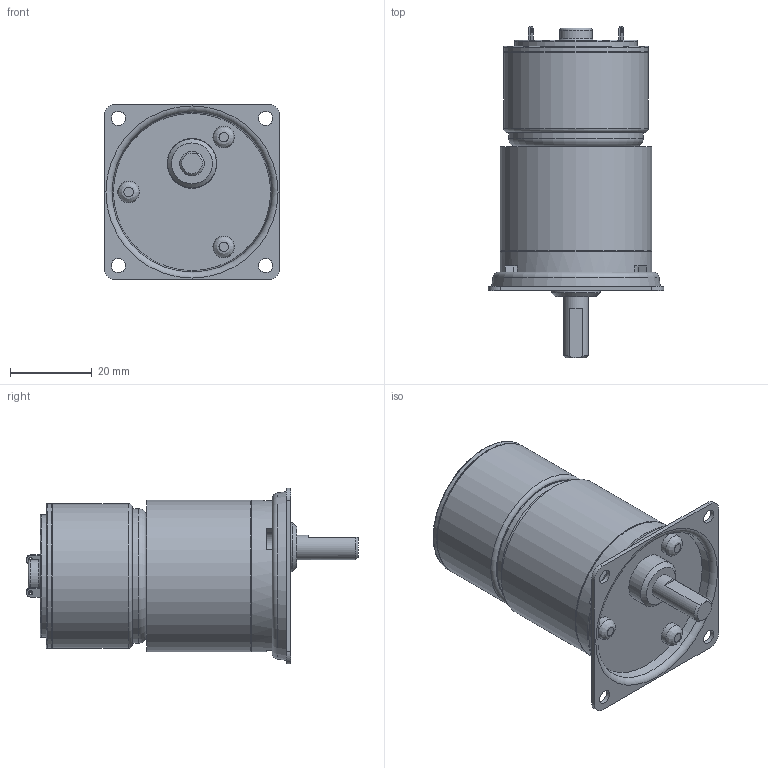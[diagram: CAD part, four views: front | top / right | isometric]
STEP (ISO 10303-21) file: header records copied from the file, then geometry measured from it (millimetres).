
FILE_DESCRIPTION((''),'2;1');
FILE_NAME('C:\Documents and Settings\SSEGAWA\デスクトップ\TP-3526E-PKS-5.STP','2013-07-09T16:57:06',('SSEGAWA'),(''),'Autodesk Inventor 2010','Autodesk Inventor 2010','');
FILE_SCHEMA(('CONFIG_CONTROL_DESIGN'));
Length unit declared in the file: millimetre
Products named in the file (5): tp_3526e_pks_5; pks_5; ks_5; □43; tp_3526e
Assembly tree (4 placements, depth 3):
  tp_3526e_pks_5
    pks_5
      ks_5
      □43
    tp_3526e
Bounding box: 43 x 81.2 x 43 mm (x, y, z)
Volume: 60695.2 mm3; surface area: 16072.8 mm2
Topology: 4 solids, 4 shells, 121 faces, 271 edges, 178 vertices
Faces by surface type: plane 49, cylinder 31, bspline 29, torus 7, cone 5
Full cylindrical faces by diameter (mm): 1.1 x1, 2 x1, 2.4 x1, 5 x1, 5.3 x3, 6 x1, 8 x1, 10 x1, 12 x1, 12.2 x1, 30 x1, 33 x1, 35 x1, 35.4 x2, 36.6 x1, 37 x2
Entity records: 3550 total; most frequent: CARTESIAN_POINT 1122, DIRECTION 499, ORIENTED_EDGE 366, AXIS2_PLACEMENT_3D 217, EDGE_LOOP 215, EDGE_CURVE 183, VERTEX_POINT 150, FACE_OUTER_BOUND 121
